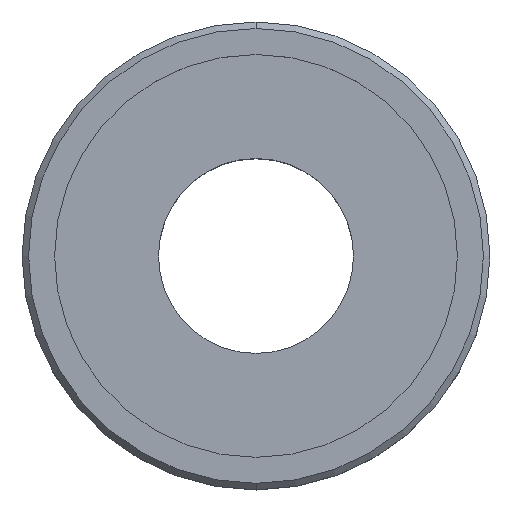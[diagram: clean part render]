
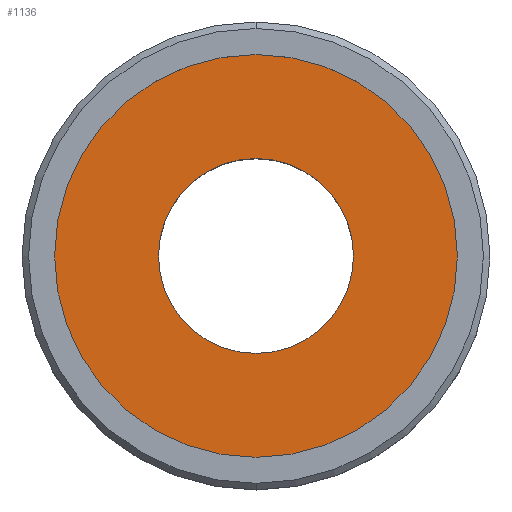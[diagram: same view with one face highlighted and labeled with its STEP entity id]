
A CAD part, top view. The second image highlights one B-rep face of the part: STEP entity #1136.
In plain terms, the highlighted planar face has unit normal (0, 0, 1).
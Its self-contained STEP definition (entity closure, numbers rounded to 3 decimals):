
#286=CARTESIAN_POINT('',(0.,0.,17.5));
#287=DIRECTION('',(0.,0.,-1.));
#288=DIRECTION('',(-1.,0.,0.));
#289=AXIS2_PLACEMENT_3D('',#286,#287,#288);
#291=CARTESIAN_POINT('',(0.,0.,17.5));
#292=DIRECTION('',(0.,0.,-1.));
#293=DIRECTION('',(1.,0.,0.));
#294=AXIS2_PLACEMENT_3D('',#291,#292,#293);
#296=CARTESIAN_POINT('',(0.,0.,17.5));
#297=DIRECTION('',(0.,0.,1.));
#298=DIRECTION('',(-1.,0.,0.));
#299=AXIS2_PLACEMENT_3D('',#296,#297,#298);
#301=CARTESIAN_POINT('',(0.,0.,17.5));
#302=DIRECTION('',(0.,0.,1.));
#303=DIRECTION('',(1.,0.,0.));
#304=AXIS2_PLACEMENT_3D('',#301,#302,#303);
#646=CARTESIAN_POINT('',(-7.5,0.,17.5));
#647=CARTESIAN_POINT('',(7.5,0.,17.5));
#648=VERTEX_POINT('',#646);
#649=VERTEX_POINT('',#647);
#650=CARTESIAN_POINT('',(-16.5,0.,17.5));
#651=CARTESIAN_POINT('',(16.5,0.,17.5));
#652=VERTEX_POINT('',#650);
#653=VERTEX_POINT('',#651);
#1121=CARTESIAN_POINT('',(0.,0.,17.5));
#1122=DIRECTION('',(0.,0.,1.));
#1123=DIRECTION('',(-1.,0.,0.));
#1124=AXIS2_PLACEMENT_3D('',#1121,#1122,#1123);
#1125=PLANE('',#1124);
#1127=ORIENTED_EDGE('',*,*,#1126,.F.);
#1129=ORIENTED_EDGE('',*,*,#1128,.F.);
#1130=EDGE_LOOP('',(#1127,#1129));
#1131=FACE_OUTER_BOUND('',#1130,.F.);
#1132=ORIENTED_EDGE('',*,*,#1101,.F.);
#1133=ORIENTED_EDGE('',*,*,#1115,.F.);
#1134=EDGE_LOOP('',(#1132,#1133));
#1135=FACE_BOUND('',#1134,.F.);
#290=CIRCLE('',#289,7.5);
#295=CIRCLE('',#294,7.5);
#300=CIRCLE('',#299,16.5);
#305=CIRCLE('',#304,16.5);
#1101=EDGE_CURVE('',#648,#649,#290,.T.);
#1115=EDGE_CURVE('',#649,#648,#295,.T.);
#1126=EDGE_CURVE('',#652,#653,#300,.T.);
#1128=EDGE_CURVE('',#653,#652,#305,.T.);
#1136=ADVANCED_FACE('',(#1131,#1135),#1125,.T.);
